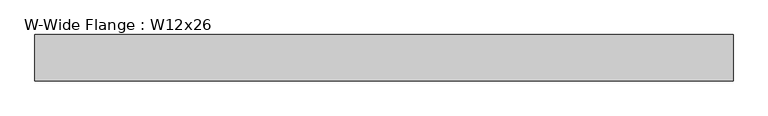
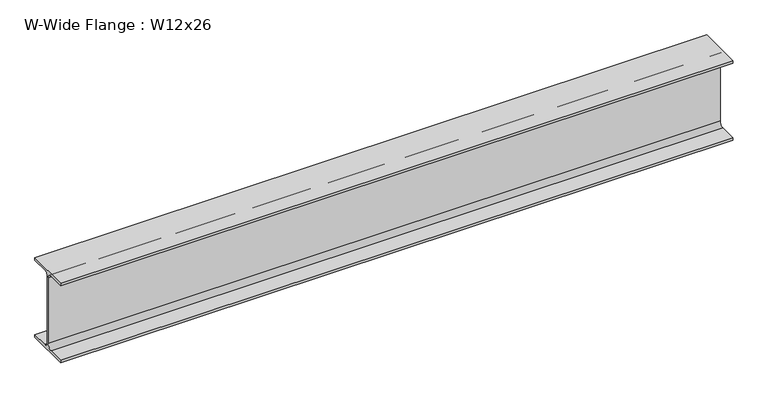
"""IFC4 building model written with IfcOpenShell, lengths in millimetres: beam geometry, W-Wide Flange : W12x26."""

from ifc_helpers import new_model, si_unit, point, frame, frame_2d, origin, place, context, project, spatial, polyline, circle_curve, trimmed, segment, composite_curve, outline, extrude, source, transform, mapped, element, save


def w_wide_flange_w12x26_e92df5a3(model_context):
    return source(origin(), model_context, "Body", "SweptSolid", [
        extrude(outline(composite_curve([segment(polyline([(82.423, -145.288), (82.423, -154.94), (-82.423, -154.94), (-82.423, -145.288), (-20.2565, -145.288)]), True, "CONTINUOUS"), segment(trimmed(circle_curve(frame_2d((-20.2565, -127.9525)), 17.3355), [point((-20.2565, -145.288))], [point((-2.921, -127.9525))], True, "CARTESIAN"), True, "CONTINUOUS"), segment(polyline([(-2.921, -127.9525), (-2.921, 127.9525)]), True, "CONTINUOUS"), segment(trimmed(circle_curve(frame_2d((-20.2565, 127.9525)), 17.3355), [point((-2.921, 127.9525))], [point((-20.2565, 145.288))], True, "CARTESIAN"), True, "CONTINUOUS"), segment(polyline([(-20.2565, 145.288), (-82.423, 145.288), (-82.423, 154.94), (82.423, 154.94), (82.423, 145.288), (20.2565, 145.288)]), True, "CONTINUOUS"), segment(trimmed(circle_curve(frame_2d((20.2565, 127.9525)), 17.3355), [point((20.2565, 145.288))], [point((2.921, 127.9525))], True, "CARTESIAN"), True, "CONTINUOUS"), segment(polyline([(2.921, 127.9525), (2.921, -127.9525)]), True, "CONTINUOUS"), segment(trimmed(circle_curve(frame_2d((20.2565, -127.9525)), 17.3355), [point((2.921, -127.9525))], [point((20.2565, -145.288))], True, "CARTESIAN"), True, "CONTINUOUS"), segment(polyline([(20.2565, -145.288), (82.423, -145.288)]), True, "CONTINUOUS")], self_intersect=False)), frame((-1155.7, 0.0, 0.0), z_axis=(1.0, 0.0, 0.0), x_axis=(0.0, 1.0, 0.0)), (0.0, 0.0, 1.0), 2476.5),
    ])


if __name__ == "__main__":
    model = new_model("IFC4")
    model_context = context("Model", 3, world=origin())
    ifc_project = project(units=[si_unit("LENGTHUNIT", "METRE", prefix="MILLI")], contexts=[model_context])
    site = spatial("IfcSite", under=ifc_project)
    building = spatial("IfcBuilding", under=site)
    placement = place(None, origin())
    w_wide_flange_w12x26_shape = w_wide_flange_w12x26_e92df5a3(model_context)
    element("IfcBeam", 1, ObjectType="W-Wide Flange : W12x26", at=placement, inside=building, context=model_context, shape_type="MappedRepresentation", body=[
        mapped(w_wide_flange_w12x26_shape, transform((0.0, 0.0, 0.0), x_axis=(1.0, 0.0, 0.0), y_axis=(0.0, 1.0, 0.0), z_axis=(0.0, 0.0, 1.0))),
    ])
    save(model, "model.ifc")
